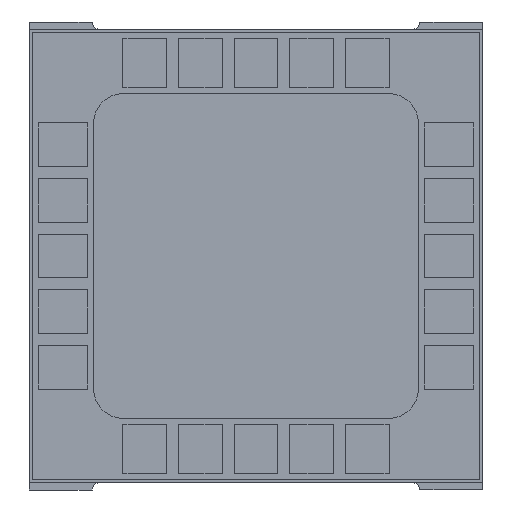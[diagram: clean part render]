
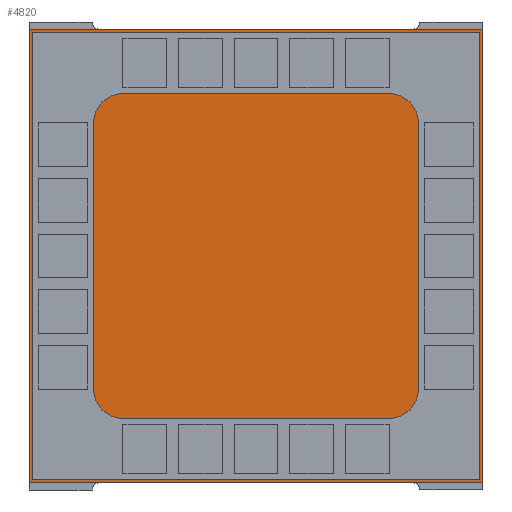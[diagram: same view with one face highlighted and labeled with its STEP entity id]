
A CAD part, front view. The second image highlights one B-rep face of the part: STEP entity #4820.
In plain terms, the highlighted planar face has unit normal (0, -1, 0).
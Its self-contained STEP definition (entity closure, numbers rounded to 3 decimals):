
#177=FACE_OUTER_BOUND('',#487,.T.);
#487=EDGE_LOOP('',(#3206,#3207,#3208,#3209));
#816=LINE('',#6873,#1442);
#820=LINE('',#6881,#1446);
#823=LINE('',#6887,#1449);
#826=LINE('',#6892,#1452);
#1442=VECTOR('',#5529,1000.);
#1446=VECTOR('',#5535,1000.);
#1449=VECTOR('',#5540,1000.);
#1452=VECTOR('',#5545,1000.);
#2068=VERTEX_POINT('',#6871);
#2069=VERTEX_POINT('',#6872);
#2072=VERTEX_POINT('',#6880);
#2074=VERTEX_POINT('',#6886);
#2512=EDGE_CURVE('',#2068,#2069,#816,.T.);
#2516=EDGE_CURVE('',#2069,#2072,#820,.T.);
#2519=EDGE_CURVE('',#2072,#2074,#823,.T.);
#2522=EDGE_CURVE('',#2074,#2068,#826,.T.);
#3206=ORIENTED_EDGE('',*,*,#2512,.F.);
#3207=ORIENTED_EDGE('',*,*,#2522,.F.);
#3208=ORIENTED_EDGE('',*,*,#2519,.F.);
#3209=ORIENTED_EDGE('',*,*,#2516,.F.);
#4539=PLANE('',#5172);
#4820=ADVANCED_FACE('',(#177),#4539,.F.);
#5172=AXIS2_PLACEMENT_3D('',#6895,#5549,#5550);
#5529=DIRECTION('',(0.,0.,1.));
#5535=DIRECTION('',(1.,0.,0.));
#5540=DIRECTION('',(0.,0.,-1.));
#5545=DIRECTION('',(-1.,0.,0.));
#5549=DIRECTION('center_axis',(0.,1.,0.));
#5550=DIRECTION('ref_axis',(0.,0.,1.));
#6871=CARTESIAN_POINT('',(-7.75,1.15,-7.75));
#6872=CARTESIAN_POINT('',(-7.75,1.15,7.75));
#6873=CARTESIAN_POINT('',(-7.75,1.15,7.75));
#6880=CARTESIAN_POINT('',(7.75,1.15,7.75));
#6881=CARTESIAN_POINT('',(7.75,1.15,7.75));
#6886=CARTESIAN_POINT('',(7.75,1.15,-7.75));
#6887=CARTESIAN_POINT('',(7.75,1.15,7.75));
#6892=CARTESIAN_POINT('',(7.75,1.15,-7.75));
#6895=CARTESIAN_POINT('Origin',(0.,1.15,0.));
